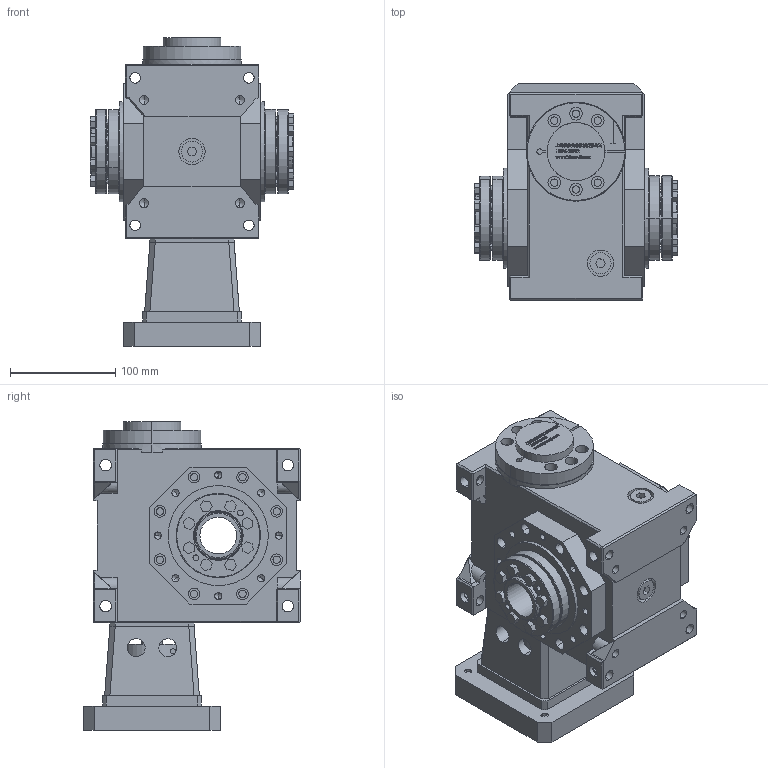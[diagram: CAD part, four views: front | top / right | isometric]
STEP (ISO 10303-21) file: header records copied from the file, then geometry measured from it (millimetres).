
FILE_DESCRIPTION (( 'STEP AP203' ), '1' );
FILE_NAME ('FXLB063-(5~90)-2C-22-110-145-M8.STEP', '2022-11-05T02:30:31', ( '' ), ( '' ), 'SwSTEP 2.0', 'SolidWorks 2020', '' );
FILE_SCHEMA (( 'CONFIG_CONTROL_DESIGN' ));
Length unit declared in the file: millimetre
Products named in the file (1): FXLB063-(5~90)-2C-22-110-145-M8
Bounding box: 193 x 206 x 293.2 mm (x, y, z)
Volume: 4408726.9 mm3; surface area: 522331.6 mm2
Topology: 22 solids, 22 shells, 2273 faces, 5792 edges, 3756 vertices
Faces by surface type: plane 1234, cylinder 513, bspline 370, cone 100, torus 56
Entity records: 86425 total; most frequent: CARTESIAN_POINT 33060, ORIENTED_EDGE 11464, DIRECTION 9908, EDGE_CURVE 5732, VERTEX_POINT 3756, VECTOR 3688, LINE 3688, AXIS2_PLACEMENT_3D 3110
